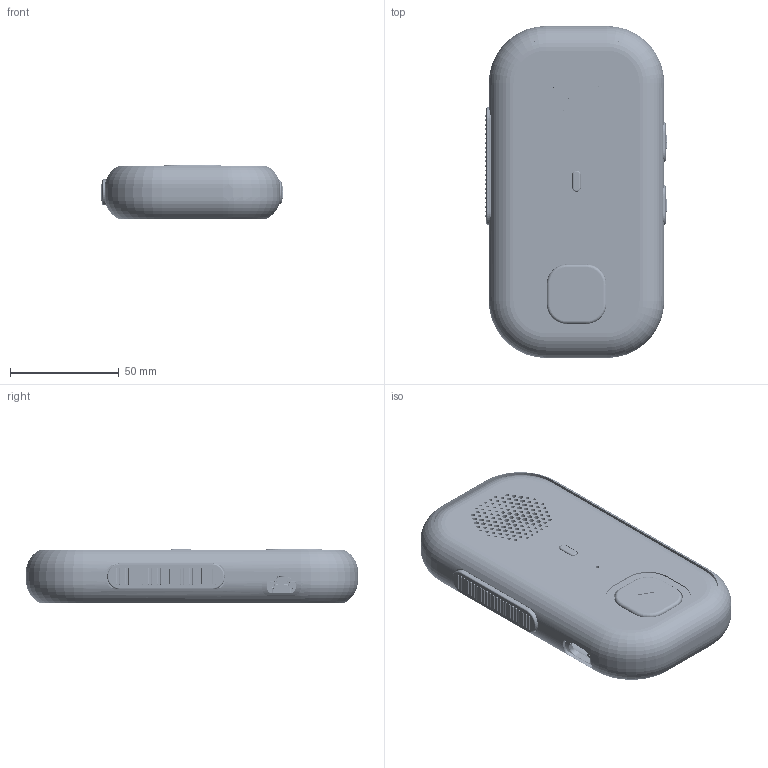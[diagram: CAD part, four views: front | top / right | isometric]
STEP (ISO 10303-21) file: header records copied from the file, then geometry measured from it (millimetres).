
FILE_DESCRIPTION(('Open CASCADE Model'),'2;1');
FILE_NAME('Walkie_One_Concept_27_R2_REFERENCE_ASSEMBLY', '2026-09-10T02:58:53',('Author'),('Open CASCADE'), 'Open CASCADE STEP processor 7.9','build123d','Unknown');
FILE_SCHEMA(('AUTOMOTIVE_DESIGN { 1 0 10303 214 1 1 1 1 }'));
Length unit declared in the file: millimetre
Products named in the file (348): Walkie_One_Concept_27_R2_REFERENCE_ASSEMBLY; C27_R2_01_Front_Shell_Chalk_Centered_Mic; C27_R2_02_Back_Shell_Chalk; C27_R2_03_Front_Action_Rigid_Carrier; C27_R2_04_Status_Lens; C27_R2_05_Front_Switch_Clamp; C27_R2_06_PTT_Rigid_Carrier; C27_R2_07_Volume_Up_Rigid_Carrier; C27_R2_08_Volume_Down_Rigid_Carrier; C27_R2_09_Warm_Grey_Elastomer_Rim; C27_R2_10_Front_Action_Pewter_Cap; C27_R2_11_Front_Action_Bond_Film; C27_R2_12_Volume_Up_Pewter_Cap; C27_R2_13_Volume_Up_Bond_Film; C27_R2_14_Volume_Down_Pewter_Cap; C27_R2_15_Volume_Down_Bond_Film; C27_R2_16_Orange_Ribbed_PTT_Grip; C27_R2_17_PTT_Bond_Film; C27_R2_PCB_Front_Seat_1; C27_R2_PCB_Rear_Preload_1; C27_R2_PCB_Front_Seat_2; C27_R2_PCB_Rear_Preload_2; C27_R2_PCB_Front_Seat_3; C27_R2_PCB_Rear_Preload_3; C27_R2_PCB_Front_Seat_4; C27_R2_PCB_Rear_Preload_4; C27_R2_Battery_Front_Pad_-1_1; C27_R2_Battery_Front_Pad_-1_2; C27_R2_Battery_Rear_Pad_-1; C27_R2_Battery_Side_Liner_-1; C27_R2_Battery_Front_Pad_1; C27_R2_Battery_Rear_Pad_1; C27_R2_Battery_Side_Liner_1; C27_R2_Battery_Lower_Liner; C27_R2_Battery_Upper_Liner_-1; C27_R2_Battery_Upper_Liner_1; C27_R2_Speaker_Front_Gasket; C27_R2_Speaker_Frame_Gasket; C27_R2_Speaker_Acoustic_Mesh; C27_R2_Speaker_Ear_Keeper_1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
Assembly tree (453 placements, depth 3):
  Walkie_One_Concept_27_R2_REFERENCE_ASSEMBLY
    C27_R2_01_Front_Shell_Chalk_Centered_Mic
    C27_R2_02_Back_Shell_Chalk
    C27_R2_03_Front_Action_Rigid_Carrier
    C27_R2_04_Status_Lens
    C27_R2_05_Front_Switch_Clamp
    C27_R2_06_PTT_Rigid_Carrier
    C27_R2_07_Volume_Up_Rigid_Carrier
    C27_R2_08_Volume_Down_Rigid_Carrier
    C27_R2_09_Warm_Grey_Elastomer_Rim
    C27_R2_10_Front_Action_Pewter_Cap
    C27_R2_11_Front_Action_Bond_Film
    C27_R2_12_Volume_Up_Pewter_Cap
    C27_R2_13_Volume_Up_Bond_Film
    C27_R2_14_Volume_Down_Pewter_Cap
    C27_R2_15_Volume_Down_Bond_Film
    C27_R2_16_Orange_Ribbed_PTT_Grip
    C27_R2_17_PTT_Bond_Film
    C27_R2_PCB_Front_Seat_1
    C27_R2_PCB_Rear_Preload_1
    C27_R2_PCB_Front_Seat_2
    C27_R2_PCB_Rear_Preload_2
    C27_R2_PCB_Front_Seat_3
    C27_R2_PCB_Rear_Preload_3
    C27_R2_PCB_Front_Seat_4
    C27_R2_PCB_Rear_Preload_4
    C27_R2_Battery_Front_Pad_-1_1
    C27_R2_Battery_Front_Pad_-1_2
    C27_R2_Battery_Rear_Pad_-1
    C27_R2_Battery_Side_Liner_-1
    C27_R2_Battery_Front_Pad_1
    C27_R2_Battery_Rear_Pad_1
    C27_R2_Battery_Side_Liner_1
    C27_R2_Battery_Lower_Liner
    C27_R2_Battery_Upper_Liner_-1
    C27_R2_Battery_Upper_Liner_1
    C27_R2_Speaker_Front_Gasket
    C27_R2_Speaker_Frame_Gasket
    C27_R2_Speaker_Acoustic_Mesh
    C27_R2_Speaker_Ear_Keeper_1
    C27_R2_Speaker_Ear_Preload_1
    C27_R2_Speaker_Ear_Keeper_2
    C27_R2_Speaker_Ear_Preload_2
    C27_R2_Microphone_Removable_Keeper
    C27_R2_Microphone_Rear_Preload
    C27_R2_Mic_Front_Seat_1
    C27_R2_Mic_Front_Seat_2
    C27_R2_Mic_Front_Seat_3
    C27_R2_Mic_Front_Seat_4
    C27_R2_Microphone_Acoustic_Seal
    C27_R2_Microphone_Acoustic_Membrane
    C27_R2_LED_Horizontal_Removable_Keeper
    C27_R2_LED_Saddle_Pad_1
    C27_R2_LED_Saddle_Pad_2
    C27_R2_Internal_Right_Angle_Light_Coupler
    C27_R2_Optical_Coupling_Film
    C27_R2_LTE_Lower_Service_Frame
    C27_R2_LTE_Upper_Service_Frame
    C27_R2_LTE_Soft_Stop_-1_1
    C27_R2_LTE_Soft_Stop_-1_2
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Bounding box: 83.35 x 152.7 x 24.74 mm (x, y, z)
Volume: 118532.6 mm3; surface area: 162776 mm2
Topology: 443 solids, 448 shells, 24969 faces, 53528 edges, 29746 vertices
Faces by surface type: plane 19752, cylinder 2810, bspline 2074, torus 248, cone 52, sphere 29, revolution 4
Full cylindrical faces by diameter (mm): 0.3 x59, 0.375 x1, 0.5 x1, 0.75 x4, 0.813 x5, 0.9 x8, 1.2 x14, 1.4 x32, 1.5 x5, 1.567 x14, 1.7 x26, 1.8 x49, 2.013 x4, 2.1 x4, 2.2 x43, 2.3 x12, 2.6 x6, 2.8 x4, 2.9 x4, 3 x3, 4.2 x6, 5 x1, 5.1 x4, 5.3 x1, 5.4 x5, 5.5 x1, 38 x2, 39.6 x3
Entity records: 1231741 total; most frequent: CARTESIAN_POINT 285663, DIRECTION 168846, LINE 115660, VECTOR 115660, ORIENTED_EDGE 91840, PCURVE 91840, DEFINITIONAL_REPRESENTATION 91840, EDGE_CURVE 45920
